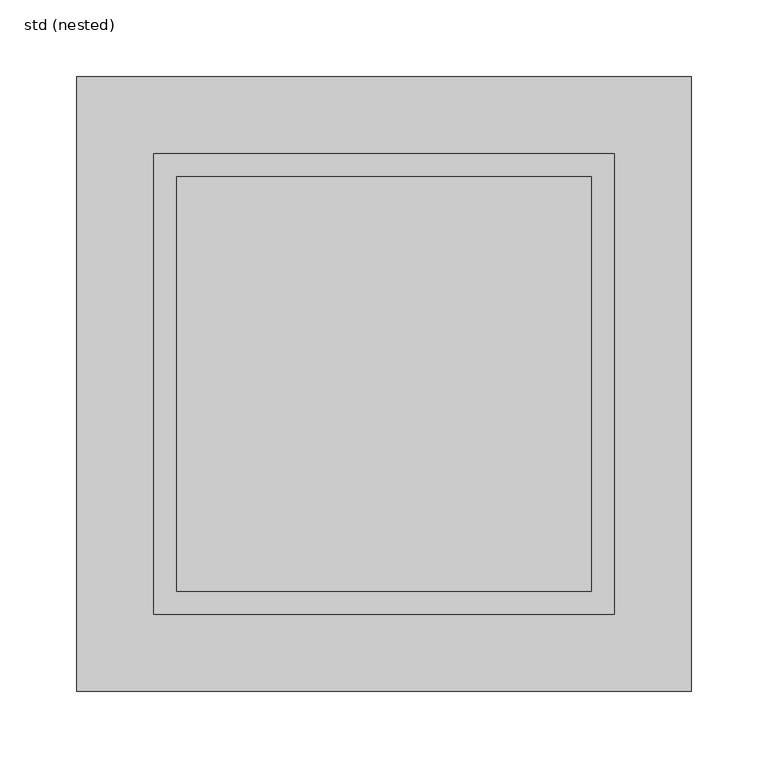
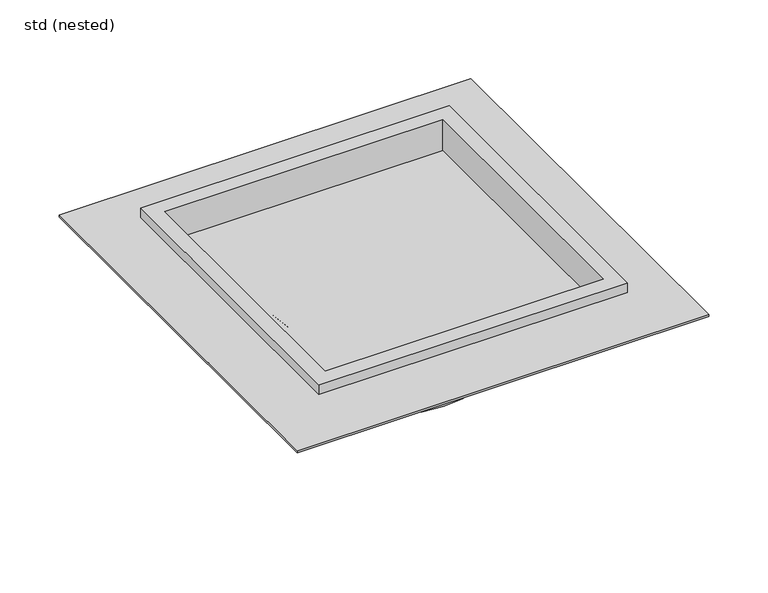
"""IFC4 building model written with IfcOpenShell, lengths in millimetres: sanitary terminal geometry, ZZZ_do not use_PF_ST_UN_telescopic gully top_ACO : std (nested)."""

from ifc_helpers import new_model, si_unit, frame, origin, place, context, project, spatial, polyline, circle_curve, faceted_brep, source, transform, mapped, element, save
from ifc_brep_helpers import plane_surface, cylinder_surface, revolved_surface, advanced_brep


def std_nested_7deef7a1(model_context):
    return source(origin(), model_context, "Body", "SolidModel", [
        advanced_brep(
        [(-100.0, 0.0, -105.0), (100.0, 0.0, -105.0), (100.0, 0.0, -46.5), (-100.0, 0.0, -46.5), (-109.0, 0.0, -33.0), (109.0, 0.0, -33.0)],
        [
            (0, 1, circle_curve(frame((0.0, 0.0, -105.0), z_axis=(0.0, 0.0, -1.0), x_axis=(1.0, 0.0, 0.0)), 100.0)),
            (1, 0, circle_curve(frame((0.0, 0.0, -105.0), z_axis=(0.0, 0.0, -1.0), x_axis=(1.0, 0.0, 0.0)), 100.0)),
            (1, 2),
            (2, 3, circle_curve(frame((0.0, 0.0, -46.5), z_axis=(0.0, 0.0, -1.0), x_axis=(1.0, 0.0, 0.0)), 100.0)),
            (3, 0),
            (3, 2, circle_curve(frame((0.0, 0.0, -46.5), z_axis=(0.0, 0.0, -1.0), x_axis=(1.0, 0.0, 0.0)), 100.0)),
            (4, 5, circle_curve(frame((0.0, 0.0, -33.0), z_axis=(0.0, 0.0, 1.0), x_axis=(1.0, 0.0, 0.0)), 109.0)),
            (5, 4, circle_curve(frame((0.0, 0.0, -33.0), z_axis=(0.0, 0.0, 1.0), x_axis=(-1.0, 0.0, 0.0)), 109.0)),
            (4, 3),
            (2, 5),
        ],
        [
            plane_surface(frame((100.0, 0.0, -105.0), z_axis=(0.0, 0.0, -1.0), x_axis=(0.0, -1.0, 0.0))),
            cylinder_surface(frame((0.0, 0.0, -105.0), z_axis=(0.0, 0.0, 1.0), x_axis=(1.0, 0.0, 0.0)), 100.0),
            plane_surface(frame((0.0, 0.0, -33.0), z_axis=(0.0, 0.0, 1.0), x_axis=(0.0, -1.0, 0.0))),
            revolved_surface(polyline([(100.0, 0.0, -46.5), (109.0, 0.0, -33.0)]), (0.0, 0.0, -196.5), (0.0, 0.0, 1.0)),
            revolved_surface(polyline([(-100.0, 0.0, -46.5), (-109.0, 0.0, -33.0)]), (0.0, 0.0, -196.5), (0.0, 0.0, 1.0)),
        ],
        [
            (0, [[1, 2]]),
            (1, [[-2, 3, 4, 5]]),
            (1, [[-1, -5, 6, -3]]),
            (2, [[7, 8]]),
            (3, [[-7, 9, -4, 10]]),
            (4, [[-8, -10, -6, -9]]),
        ],
    ),
        faceted_brep([(200.0, 200.0, -22.0), (200.0, -200.0, -22.0), (-200.0, -200.0, -22.0), (-200.0, 200.0, -22.0), (136.25, 136.25, -22.0), (-136.25, 136.25, -22.0), (-136.25, -136.25, -22.0), (136.25, -136.25, -22.0), (200.0, 200.0, -20.0), (-200.0, 200.0, -20.0), (-200.0, -200.0, -20.0), (200.0, -200.0, -20.0), (136.25, 136.25, -20.0), (136.25, -136.25, -20.0), (-136.25, -136.25, -20.0), (-136.25, 136.25, -20.0)], [[[0, 1, 2, 3], [4, 5, 6, 7]], [[8, 9, 10, 11], [12, 13, 14, 15]], [[0, 3, 9, 8]], [[3, 2, 10, 9]], [[2, 1, 11, 10]], [[1, 0, 8, 11]], [[4, 7, 13, 12]], [[7, 6, 14, 13]], [[6, 5, 15, 14]], [[5, 4, 12, 15]]]),
        faceted_brep([(136.25, 136.25, -33.0), (136.25, -136.25, -33.0), (-136.25, -136.25, -33.0), (-136.25, 136.25, -33.0), (135.0, -135.0, -31.75), (135.0, 135.0, -31.75), (-135.0, 135.0, -31.75), (-135.0, -135.0, -31.75), (-136.25, 136.25, -10.0), (136.25, 136.25, -10.0), (-136.25, -136.25, -10.0), (136.25, -136.25, -10.0), (135.0, -135.0, 0.0), (135.0, 135.0, 0.0), (-135.0, -135.0, 0.0), (-135.0, 135.0, 0.0), (150.0, 150.0, -10.0), (150.0, -150.0, -10.0), (-150.0, -150.0, -10.0), (-150.0, 150.0, -10.0), (150.0, 150.0, 0.0), (-150.0, 150.0, 0.0), (-150.0, -150.0, 0.0), (150.0, -150.0, 0.0)], [[[0, 1, 2, 3]], [[4, 5, 6, 7]], [[0, 3, 8, 9]], [[3, 2, 10, 8]], [[2, 1, 11, 10]], [[1, 0, 9, 11]], [[5, 4, 12, 13]], [[12, 4, 7, 14]], [[14, 7, 6, 15]], [[5, 13, 15, 6]], [[16, 17, 18, 19], [9, 8, 10, 11]], [[20, 21, 22, 23], [13, 12, 14, 15]], [[16, 19, 21, 20]], [[19, 18, 22, 21]], [[18, 17, 23, 22]], [[17, 16, 20, 23]]]),
    ])


if __name__ == "__main__":
    model = new_model("IFC4")
    model_context = context("Model", 3, world=origin())
    ifc_project = project(units=[si_unit("LENGTHUNIT", "METRE", prefix="MILLI")], contexts=[model_context])
    site = spatial("IfcSite", under=ifc_project)
    building = spatial("IfcBuilding", under=site)
    placement = place(None, origin())
    std_nested_shape = std_nested_7deef7a1(model_context)
    element("IfcSanitaryTerminal", 1, ObjectType="ZZZ_do not use_PF_ST_UN_telescopic gully top_ACO : std (nested)", at=placement, inside=building, context=model_context, shape_type="MappedRepresentation", body=[
        mapped(std_nested_shape, transform((0.0, 0.0, 0.0), x_axis=(1.0, 0.0, 0.0), y_axis=(0.0, 1.0, 0.0), z_axis=(0.0, 0.0, 1.0))),
    ])
    save(model, "model.ifc")
